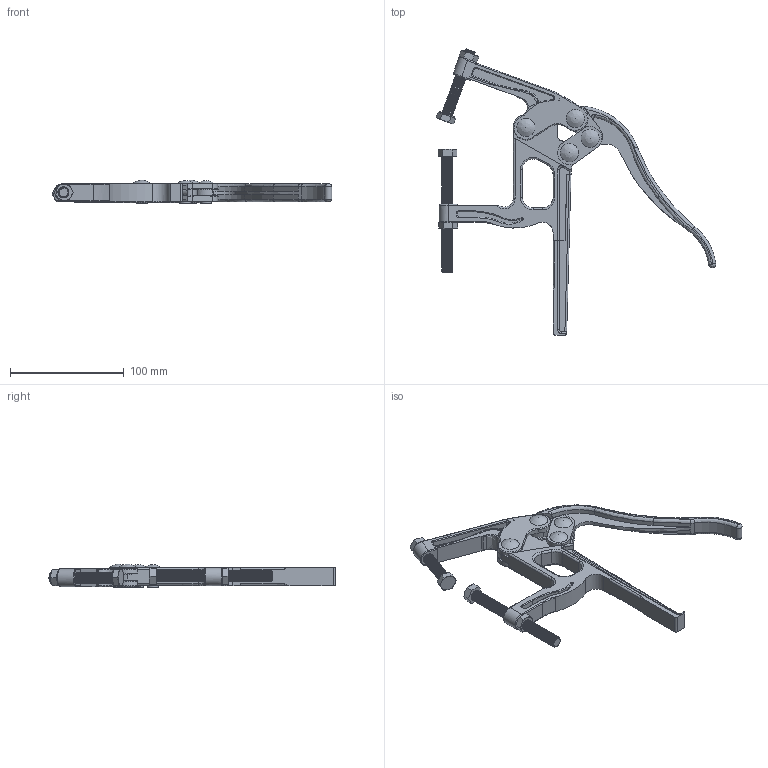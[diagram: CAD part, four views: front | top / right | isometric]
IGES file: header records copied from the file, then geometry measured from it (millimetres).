
Global section: file name: C-1203-2S OPEN; native system: Autodesk RealDWG; preprocessor: Autodesk Translation Framework DWG producer (atf_dwg_producer); organization: unknown; date: 20160517.144500; units: inch
Bounding box: 245.48 x 251.05 x 20.57 mm (x, y, z)
Volume: 141600.2 mm3; surface area: 69372.9 mm2
Topology: 13 solids, 15 shells, 592 faces, 1391 edges, 838 vertices
Faces by surface type: bspline 592
